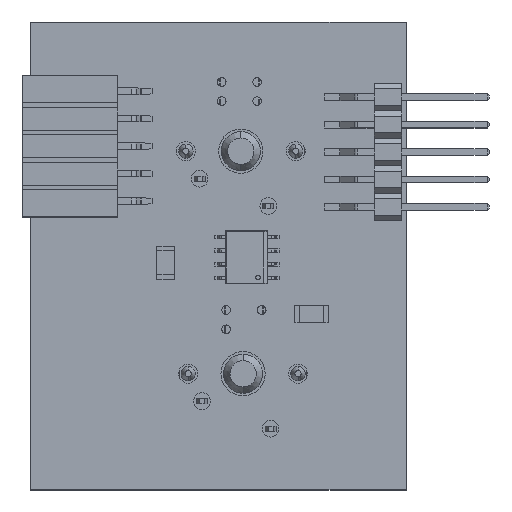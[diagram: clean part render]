
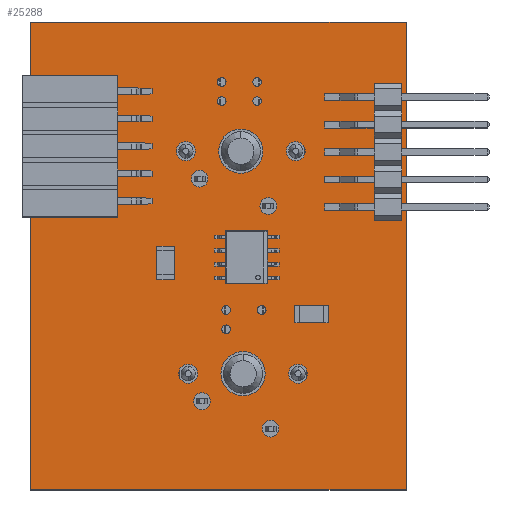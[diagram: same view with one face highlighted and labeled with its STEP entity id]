
A CAD part, top view. The second image highlights one B-rep face of the part: STEP entity #25288.
In plain terms, the highlighted planar face has unit normal (0, 0, 1).
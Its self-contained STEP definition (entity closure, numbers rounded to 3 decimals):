
#24989 = VERTEX_POINT('',#24990);
#24990 = CARTESIAN_POINT('',(141.25,-111.75,1.51));
#24996 = EDGE_CURVE('',#24989,#24997,#24999,.T.);
#24997 = VERTEX_POINT('',#24998);
#24998 = CARTESIAN_POINT('',(106.5,-111.75,1.51));
#24999 = LINE('',#25000,#25001);
#25000 = CARTESIAN_POINT('',(141.25,-111.75,1.51));
#25001 = VECTOR('',#25002,1.);
#25002 = DIRECTION('',(-1.,0.,0.));
#25029 = VERTEX_POINT('',#25030);
#25030 = CARTESIAN_POINT('',(141.25,-68.475,1.51));
#25036 = EDGE_CURVE('',#25029,#24989,#25037,.T.);
#25037 = LINE('',#25038,#25039);
#25038 = CARTESIAN_POINT('',(141.25,-68.475,1.51));
#25039 = VECTOR('',#25040,1.);
#25040 = DIRECTION('',(0.,-1.,0.));
#25058 = EDGE_CURVE('',#24997,#25059,#25061,.T.);
#25059 = VERTEX_POINT('',#25060);
#25060 = CARTESIAN_POINT('',(106.5,-68.475,1.51));
#25061 = LINE('',#25062,#25063);
#25062 = CARTESIAN_POINT('',(106.5,-111.75,1.51));
#25063 = VECTOR('',#25064,1.);
#25064 = DIRECTION('',(0.,1.,0.));
#25288 = ADVANCED_FACE('',(#25289,#25300,#25311,#25322,#25333,#25344,
    #25355,#25366,#25377,#25388,#25399,#25410,#25421,#25432,#25443,
    #25454,#25465,#25476),#25487,.T.);
#25289 = FACE_BOUND('',#25290,.T.);
#25290 = EDGE_LOOP('',(#25291,#25292,#25293,#25299));
#25291 = ORIENTED_EDGE('',*,*,#24996,.F.);
#25292 = ORIENTED_EDGE('',*,*,#25036,.F.);
#25293 = ORIENTED_EDGE('',*,*,#25294,.F.);
#25294 = EDGE_CURVE('',#25059,#25029,#25295,.T.);
#25295 = LINE('',#25296,#25297);
#25296 = CARTESIAN_POINT('',(106.5,-68.475,1.51));
#25297 = VECTOR('',#25298,1.);
#25298 = DIRECTION('',(1.,0.,0.));
#25299 = ORIENTED_EDGE('',*,*,#25058,.F.);
#25300 = FACE_BOUND('',#25301,.T.);
#25301 = EDGE_LOOP('',(#25302));
#25302 = ORIENTED_EDGE('',*,*,#25303,.T.);
#25303 = EDGE_CURVE('',#25304,#25304,#25306,.T.);
#25304 = VERTEX_POINT('',#25305);
#25305 = CARTESIAN_POINT('',(122.36,-104.315,1.51));
#25306 = CIRCLE('',#25307,0.775);
#25307 = AXIS2_PLACEMENT_3D('',#25308,#25309,#25310);
#25308 = CARTESIAN_POINT('',(122.36,-103.54,1.51));
#25309 = DIRECTION('',(-0.,0.,-1.));
#25310 = DIRECTION('',(-0.,-1.,0.));
#25311 = FACE_BOUND('',#25312,.T.);
#25312 = EDGE_LOOP('',(#25313));
#25313 = ORIENTED_EDGE('',*,*,#25314,.T.);
#25314 = EDGE_CURVE('',#25315,#25315,#25317,.T.);
#25315 = VERTEX_POINT('',#25316);
#25316 = CARTESIAN_POINT('',(121.09,-101.876,1.51));
#25317 = CIRCLE('',#25318,0.876);
#25318 = AXIS2_PLACEMENT_3D('',#25319,#25320,#25321);
#25319 = CARTESIAN_POINT('',(121.09,-101.,1.51));
#25320 = DIRECTION('',(-0.,0.,-1.));
#25321 = DIRECTION('',(-0.,-1.,0.));
#25322 = FACE_BOUND('',#25323,.T.);
#25323 = EDGE_LOOP('',(#25324));
#25324 = ORIENTED_EDGE('',*,*,#25325,.T.);
#25325 = EDGE_CURVE('',#25326,#25326,#25328,.T.);
#25326 = VERTEX_POINT('',#25327);
#25327 = CARTESIAN_POINT('',(124.61,-97.29,1.51));
#25328 = CIRCLE('',#25329,0.4);
#25329 = AXIS2_PLACEMENT_3D('',#25330,#25331,#25332);
#25330 = CARTESIAN_POINT('',(124.61,-96.89,1.51));
#25331 = DIRECTION('',(-0.,0.,-1.));
#25332 = DIRECTION('',(-0.,-1.,0.));
#25333 = FACE_BOUND('',#25334,.T.);
#25334 = EDGE_LOOP('',(#25335));
#25335 = ORIENTED_EDGE('',*,*,#25336,.T.);
#25336 = EDGE_CURVE('',#25337,#25337,#25339,.T.);
#25337 = VERTEX_POINT('',#25338);
#25338 = CARTESIAN_POINT('',(124.61,-95.51,1.51));
#25339 = CIRCLE('',#25340,0.4);
#25340 = AXIS2_PLACEMENT_3D('',#25341,#25342,#25343);
#25341 = CARTESIAN_POINT('',(124.61,-95.11,1.51));
#25342 = DIRECTION('',(-0.,0.,-1.));
#25343 = DIRECTION('',(-0.,-1.,0.));
#25344 = FACE_BOUND('',#25345,.T.);
#25345 = EDGE_LOOP('',(#25346));
#25346 = ORIENTED_EDGE('',*,*,#25347,.T.);
#25347 = EDGE_CURVE('',#25348,#25348,#25350,.T.);
#25348 = VERTEX_POINT('',#25349);
#25349 = CARTESIAN_POINT('',(128.71,-106.855,1.51));
#25350 = CIRCLE('',#25351,0.775);
#25351 = AXIS2_PLACEMENT_3D('',#25352,#25353,#25354);
#25352 = CARTESIAN_POINT('',(128.71,-106.08,1.51));
#25353 = DIRECTION('',(-0.,0.,-1.));
#25354 = DIRECTION('',(-0.,-1.,0.));
#25355 = FACE_BOUND('',#25356,.T.);
#25356 = EDGE_LOOP('',(#25357));
#25357 = ORIENTED_EDGE('',*,*,#25358,.T.);
#25358 = EDGE_CURVE('',#25359,#25359,#25361,.T.);
#25359 = VERTEX_POINT('',#25360);
#25360 = CARTESIAN_POINT('',(126.17,-103.045,1.51));
#25361 = CIRCLE('',#25362,2.045);
#25362 = AXIS2_PLACEMENT_3D('',#25363,#25364,#25365);
#25363 = CARTESIAN_POINT('',(126.17,-101.,1.51));
#25364 = DIRECTION('',(-0.,0.,-1.));
#25365 = DIRECTION('',(0.,-1.,-0.));
#25366 = FACE_BOUND('',#25367,.T.);
#25367 = EDGE_LOOP('',(#25368));
#25368 = ORIENTED_EDGE('',*,*,#25369,.T.);
#25369 = EDGE_CURVE('',#25370,#25370,#25372,.T.);
#25370 = VERTEX_POINT('',#25371);
#25371 = CARTESIAN_POINT('',(131.25,-101.876,1.51));
#25372 = CIRCLE('',#25373,0.876);
#25373 = AXIS2_PLACEMENT_3D('',#25374,#25375,#25376);
#25374 = CARTESIAN_POINT('',(131.25,-101.,1.51));
#25375 = DIRECTION('',(-0.,0.,-1.));
#25376 = DIRECTION('',(-0.,-1.,0.));
#25377 = FACE_BOUND('',#25378,.T.);
#25378 = EDGE_LOOP('',(#25379));
#25379 = ORIENTED_EDGE('',*,*,#25380,.T.);
#25380 = EDGE_CURVE('',#25381,#25381,#25383,.T.);
#25381 = VERTEX_POINT('',#25382);
#25382 = CARTESIAN_POINT('',(127.89,-95.51,1.51));
#25383 = CIRCLE('',#25384,0.4);
#25384 = AXIS2_PLACEMENT_3D('',#25385,#25386,#25387);
#25385 = CARTESIAN_POINT('',(127.89,-95.11,1.51));
#25386 = DIRECTION('',(-0.,0.,-1.));
#25387 = DIRECTION('',(0.,-1.,-0.));
#25388 = FACE_BOUND('',#25389,.T.);
#25389 = EDGE_LOOP('',(#25390));
#25390 = ORIENTED_EDGE('',*,*,#25391,.T.);
#25391 = EDGE_CURVE('',#25392,#25392,#25394,.T.);
#25392 = VERTEX_POINT('',#25393);
#25393 = CARTESIAN_POINT('',(122.15,-83.735,1.51));
#25394 = CIRCLE('',#25395,0.775);
#25395 = AXIS2_PLACEMENT_3D('',#25396,#25397,#25398);
#25396 = CARTESIAN_POINT('',(122.15,-82.96,1.51));
#25397 = DIRECTION('',(-0.,0.,-1.));
#25398 = DIRECTION('',(-0.,-1.,0.));
#25399 = FACE_BOUND('',#25400,.T.);
#25400 = EDGE_LOOP('',(#25401));
#25401 = ORIENTED_EDGE('',*,*,#25402,.T.);
#25402 = EDGE_CURVE('',#25403,#25403,#25405,.T.);
#25403 = VERTEX_POINT('',#25404);
#25404 = CARTESIAN_POINT('',(120.88,-81.296,1.51));
#25405 = CIRCLE('',#25406,0.876);
#25406 = AXIS2_PLACEMENT_3D('',#25407,#25408,#25409);
#25407 = CARTESIAN_POINT('',(120.88,-80.42,1.51));
#25408 = DIRECTION('',(-0.,0.,-1.));
#25409 = DIRECTION('',(-0.,-1.,0.));
#25410 = FACE_BOUND('',#25411,.T.);
#25411 = EDGE_LOOP('',(#25412));
#25412 = ORIENTED_EDGE('',*,*,#25413,.T.);
#25413 = EDGE_CURVE('',#25414,#25414,#25416,.T.);
#25414 = VERTEX_POINT('',#25415);
#25415 = CARTESIAN_POINT('',(125.96,-82.465,1.51));
#25416 = CIRCLE('',#25417,2.045);
#25417 = AXIS2_PLACEMENT_3D('',#25418,#25419,#25420);
#25418 = CARTESIAN_POINT('',(125.96,-80.42,1.51));
#25419 = DIRECTION('',(-0.,0.,-1.));
#25420 = DIRECTION('',(0.,-1.,0.));
#25421 = FACE_BOUND('',#25422,.T.);
#25422 = EDGE_LOOP('',(#25423));
#25423 = ORIENTED_EDGE('',*,*,#25424,.T.);
#25424 = EDGE_CURVE('',#25425,#25425,#25427,.T.);
#25425 = VERTEX_POINT('',#25426);
#25426 = CARTESIAN_POINT('',(124.192,-76.198,1.51));
#25427 = CIRCLE('',#25428,0.4);
#25428 = AXIS2_PLACEMENT_3D('',#25429,#25430,#25431);
#25429 = CARTESIAN_POINT('',(124.192,-75.798,1.51));
#25430 = DIRECTION('',(-0.,0.,-1.));
#25431 = DIRECTION('',(-0.,-1.,0.));
#25432 = FACE_BOUND('',#25433,.T.);
#25433 = EDGE_LOOP('',(#25434));
#25434 = ORIENTED_EDGE('',*,*,#25435,.T.);
#25435 = EDGE_CURVE('',#25436,#25436,#25438,.T.);
#25436 = VERTEX_POINT('',#25437);
#25437 = CARTESIAN_POINT('',(124.192,-74.418,1.51));
#25438 = CIRCLE('',#25439,0.4);
#25439 = AXIS2_PLACEMENT_3D('',#25440,#25441,#25442);
#25440 = CARTESIAN_POINT('',(124.192,-74.018,1.51));
#25441 = DIRECTION('',(-0.,0.,-1.));
#25442 = DIRECTION('',(-0.,-1.,0.));
#25443 = FACE_BOUND('',#25444,.T.);
#25444 = EDGE_LOOP('',(#25445));
#25445 = ORIENTED_EDGE('',*,*,#25446,.T.);
#25446 = EDGE_CURVE('',#25447,#25447,#25449,.T.);
#25447 = VERTEX_POINT('',#25448);
#25448 = CARTESIAN_POINT('',(128.5,-86.275,1.51));
#25449 = CIRCLE('',#25450,0.775);
#25450 = AXIS2_PLACEMENT_3D('',#25451,#25452,#25453);
#25451 = CARTESIAN_POINT('',(128.5,-85.5,1.51));
#25452 = DIRECTION('',(-0.,0.,-1.));
#25453 = DIRECTION('',(-0.,-1.,0.));
#25454 = FACE_BOUND('',#25455,.T.);
#25455 = EDGE_LOOP('',(#25456));
#25456 = ORIENTED_EDGE('',*,*,#25457,.T.);
#25457 = EDGE_CURVE('',#25458,#25458,#25460,.T.);
#25458 = VERTEX_POINT('',#25459);
#25459 = CARTESIAN_POINT('',(127.472,-76.198,1.51));
#25460 = CIRCLE('',#25461,0.4);
#25461 = AXIS2_PLACEMENT_3D('',#25462,#25463,#25464);
#25462 = CARTESIAN_POINT('',(127.472,-75.798,1.51));
#25463 = DIRECTION('',(-0.,0.,-1.));
#25464 = DIRECTION('',(-0.,-1.,0.));
#25465 = FACE_BOUND('',#25466,.T.);
#25466 = EDGE_LOOP('',(#25467));
#25467 = ORIENTED_EDGE('',*,*,#25468,.T.);
#25468 = EDGE_CURVE('',#25469,#25469,#25471,.T.);
#25469 = VERTEX_POINT('',#25470);
#25470 = CARTESIAN_POINT('',(127.472,-74.418,1.51));
#25471 = CIRCLE('',#25472,0.4);
#25472 = AXIS2_PLACEMENT_3D('',#25473,#25474,#25475);
#25473 = CARTESIAN_POINT('',(127.472,-74.018,1.51));
#25474 = DIRECTION('',(-0.,0.,-1.));
#25475 = DIRECTION('',(-0.,-1.,0.));
#25476 = FACE_BOUND('',#25477,.T.);
#25477 = EDGE_LOOP('',(#25478));
#25478 = ORIENTED_EDGE('',*,*,#25479,.T.);
#25479 = EDGE_CURVE('',#25480,#25480,#25482,.T.);
#25480 = VERTEX_POINT('',#25481);
#25481 = CARTESIAN_POINT('',(131.04,-81.296,1.51));
#25482 = CIRCLE('',#25483,0.876);
#25483 = AXIS2_PLACEMENT_3D('',#25484,#25485,#25486);
#25484 = CARTESIAN_POINT('',(131.04,-80.42,1.51));
#25485 = DIRECTION('',(-0.,0.,-1.));
#25486 = DIRECTION('',(0.,-1.,0.));
#25487 = PLANE('',#25488);
#25488 = AXIS2_PLACEMENT_3D('',#25489,#25490,#25491);
#25489 = CARTESIAN_POINT('',(0.,0.,1.51));
#25490 = DIRECTION('',(0.,0.,1.));
#25491 = DIRECTION('',(1.,0.,-0.));
